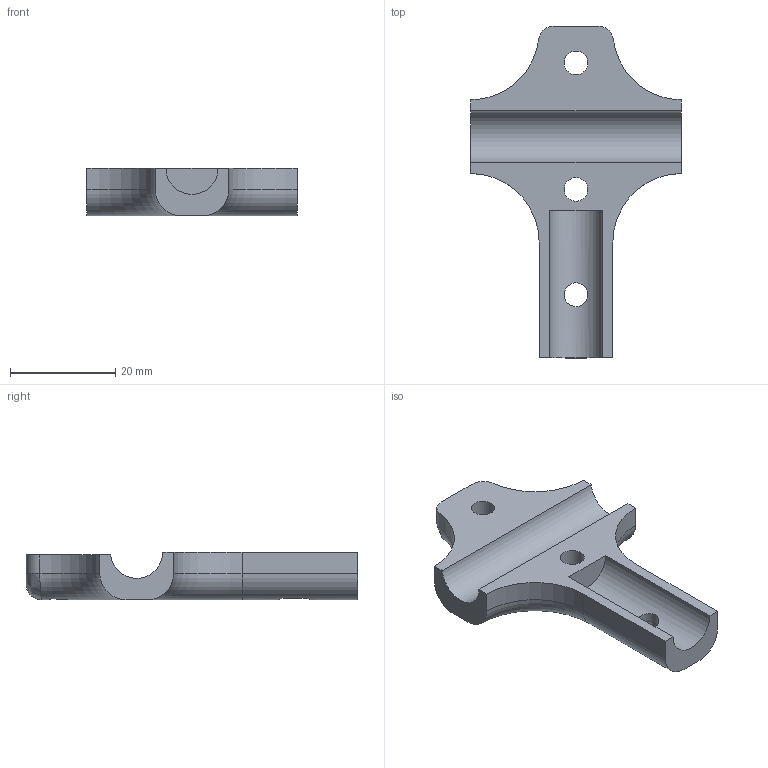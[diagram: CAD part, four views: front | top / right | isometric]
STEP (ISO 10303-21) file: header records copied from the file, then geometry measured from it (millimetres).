
FILE_DESCRIPTION((''),'2;1');
FILE_NAME('D:\Data\Documents\Studium\10.Semester\Studienarbeit\Design\Winkel Unterseite.stp','2016-07-07T12:33:38',('Fabian'),(''),'Autodesk Inventor 2013','Autodesk Inventor 2013','');
FILE_SCHEMA(('AUTOMOTIVE_DESIGN { 1 0 10303 214 1 1 1 1 }'));
Length unit declared in the file: millimetre
Products named in the file (1): Winkel Unterseite
Bounding box: 40 x 63 x 9 mm (x, y, z)
Volume: 8371.7 mm3; surface area: 4646.4 mm2
Topology: 1 solids, 1 shells, 54 faces, 182 edges, 163 vertices
Faces by surface type: plane 34, cylinder 14, torus 4, bspline 2
Full cylindrical faces by diameter (mm): 4.5 x3
Entity records: 2251 total; most frequent: CARTESIAN_POINT 513, DIRECTION 322, ORIENTED_EDGE 288, EDGE_CURVE 144, VECTOR 124, LINE 124, AXIS2_PLACEMENT_3D 99, VERTEX_POINT 96
